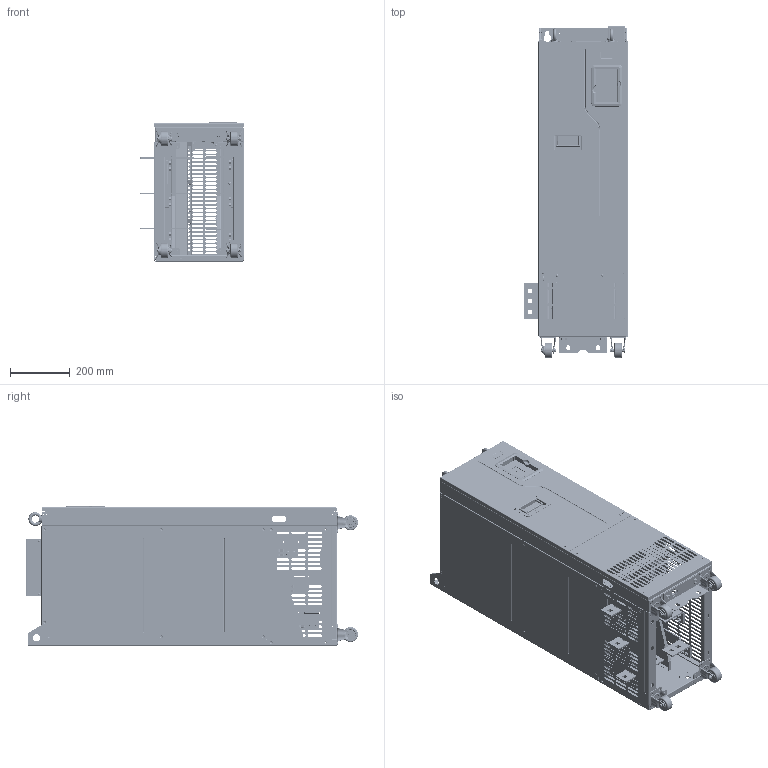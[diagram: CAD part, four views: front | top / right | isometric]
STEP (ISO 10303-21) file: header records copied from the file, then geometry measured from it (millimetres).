
FILE_DESCRIPTION((''),'2;1');
FILE_NAME('GD290-250P-4_ASM','2025-04-10T13:11:02',('Administrator'),(''),'CREO PARAMETRIC BY PTC INC, 2019080','CREO PARAMETRIC BY PTC INC, 2019080','');
FILE_SCHEMA(('CONFIG_CONTROL_DESIGN','SHAPE_APPEARANCE_LAYERS_GROUPS'));
Products named in the file (171): 80386898_2_1; S-M4-ZC_1_1; S-M6-ZC_1_1; 80386898_ASM_2_ASM_1_ASM; 80386894_1_1; 80386912_1_1; 80386912_ASM_1_ASM_1_ASM; GB12617_2_4X10_ZC_1_1; 61210537_ASM_2_ASM_1_ASM; 80386900_2_1; BSO-M4-10-ZC_1_1; BSO-M4-18-ZC_1_1; 80386900_ASM_2_ASM_1_ASM; 80386900SY_1_1; 80386900SY_ASM_1_ASM_1_ASM; 80386899_2_1; GB12618_2_4X10_ZC_1_1; SO-M4-10-ZC_1_1; 80386899_ASM_1_ASM_1_ASM; 80386915_1_1; 80386915_ASM_1_ASM_1_ASM; 80483115_1_1; 80483115_ASM_1_ASM_1_ASM; 80483114_1_1; NZ-M10-ZC_1_1; 80483114_ASM_1_ASM_1_ASM; WG-02-0003_1_1; 80387011_1_1; 80387011_ASM_1_ASM_1_ASM; GB819_1_M4X8_ZB_1_1; GB9074_4_M4X12_1_1; 61210533_ASM_1_ASM_1_ASM; 80386922_2_1; 80386922_ASM_2_ASM_1_ASM; 80386920_1_1; 80386920_ASM_1_ASM_1_ASM; 78470481_2_1; 80386905_1_1; 61210535_ASM_2_ASM_1_ASM; 80386913_2_1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
Assembly tree (606 placements, depth 8):
  GD290-250P-4_ASM
    00_GD270-220-250KW-4_ASM_3_ASM__ASM
      40801316_ASM_2_ASM_1_ASM
        61061675_ASM_2_ASM_1_ASM
          61210537_ASM_2_ASM_1_ASM
            80386898_ASM_2_ASM_1_ASM
              80386898_2_1
              S-M4-ZC_1_1  x7
              S-M6-ZC_1_1  x6
            80386894_1_1
            80386912_ASM_1_ASM_1_ASM
              80386912_1_1
            GB12617_2_4X10_ZC_1_1  x15
          61210533_ASM_1_ASM_1_ASM
            80386900SY_ASM_1_ASM_1_ASM
              80386900_ASM_2_ASM_1_ASM
                80386900_2_1
                S-M4-ZC_1_1  x11
                GB12617_2_4X10_ZC_1_1  x16
                BSO-M4-10-ZC_1_1  x4
                BSO-M4-18-ZC_1_1  x4
                S-M6-ZC_1_1  x4
              80386900SY_1_1
            80386899_ASM_1_ASM_1_ASM
              80386899_2_1
              GB12618_2_4X10_ZC_1_1  x4
              SO-M4-10-ZC_1_1  x4
              S-M4-ZC_1_1  x4
            80386915_ASM_1_ASM_1_ASM
              80386915_1_1
              GB12618_2_4X10_ZC_1_1  x4
              S-M4-ZC_1_1  x4
            80483115_ASM_1_ASM_1_ASM  x5
              80483115_1_1
              S-M4-ZC_1_1
            80483114_ASM_1_ASM_1_ASM  x2
              80483114_1_1
              NZ-M10-ZC_1_1
            WG-02-0003_1_1
            80387011_ASM_1_ASM_1_ASM
              80387011_1_1
              S-M4-ZC_1_1  x3
            GB12618_2_4X10_ZC_1_1  x34
            GB819_1_M4X8_ZB_1_1  x4
            GB9074_4_M4X12_1_1  x2
          61210535_ASM_2_ASM_1_ASM
            80386922_ASM_2_ASM_1_ASM
              80386922_2_1
              S-M6-ZC_1_1  x10
            80386920_ASM_1_ASM_1_ASM
              80386920_1_1
              S-M4-ZC_1_1  x2
            78470481_2_1
            80386905_1_1
            GB12618_2_4X10_ZC_1_1  x14
          61210534_ASM_2_ASM_1_ASM
            80386913_ASM_1_ASM_1_ASM
              80386913_2_1
              S-M6-ZC_1_1  x10
              S-M4-ZC_1_1  x6
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Bounding box: 348 x 1113 x 467.99 mm (x, y, z)
Volume: 433533.8 mm3; surface area: 6242900 mm2
Topology: 39 solids, 26649 shells, 29912 faces, 148166 edges, 144848 vertices
Faces by surface type: plane 19615, cylinder 5791, cone 2418, torus 650, extrusion 572, sphere 504, bspline 358, revolution 4
Entity records: 558666 total; most frequent: CARTESIAN_POINT 196575, DIRECTION 66252, ORIENTED_EDGE 49274, EDGE_CURVE 47421, VERTEX_POINT 46744, VECTOR 30880, LINE 30308, AXIS2_PLACEMENT_3D 17684
